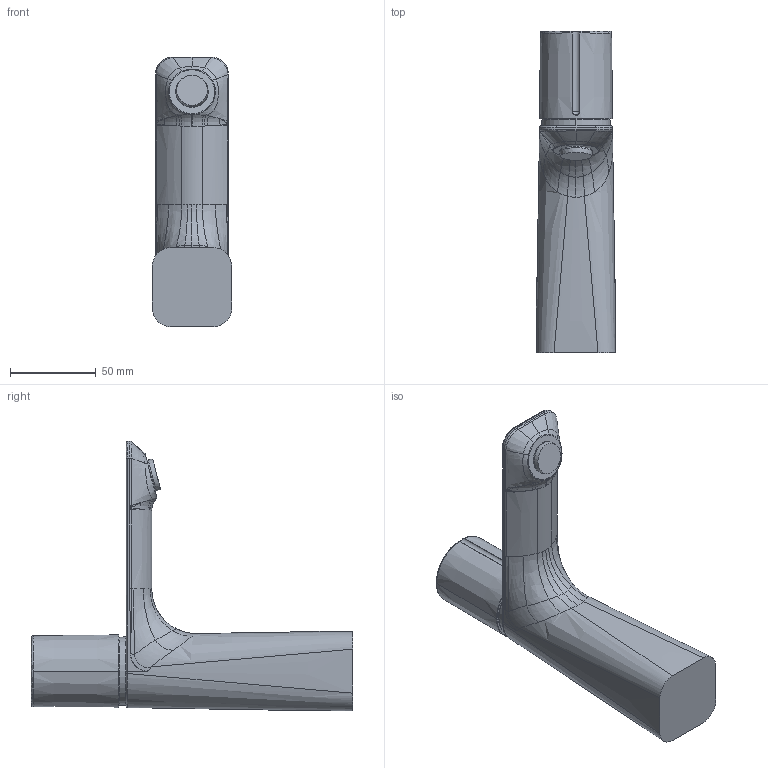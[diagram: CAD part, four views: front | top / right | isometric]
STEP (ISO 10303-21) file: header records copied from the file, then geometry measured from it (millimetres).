
FILE_DESCRIPTION((''),'2;1');
FILE_NAME('509541_115_SW0003','2021-10-20T12:41:14',('KS894'),(''),'CREO PARAMETRIC BY PTC INC, 2018500','CREO PARAMETRIC BY PTC INC, 2018500','');
FILE_SCHEMA(('CONFIG_CONTROL_DESIGN'));
Length unit declared in the file: millimetre
Products named in the file (1): 509541_115_SW0003
Bounding box: 46.2 x 187.15 x 157.1 mm (x, y, z)
Volume: 366337.7 mm3; surface area: 41953.9 mm2
Topology: 1 solids, 1 shells, 150 faces, 343 edges, 199 vertices
Faces by surface type: bspline 119, plane 9, cylinder 9, torus 7, cone 4, sphere 2
Entity records: 12127 total; most frequent: CARTESIAN_POINT 9502, ORIENTED_EDGE 686, EDGE_CURVE 343, DIRECTION 302, B_SPLINE_CURVE_WITH_KNOTS 206, VERTEX_POINT 199, EDGE_LOOP 154, FACE_OUTER_BOUND 150
